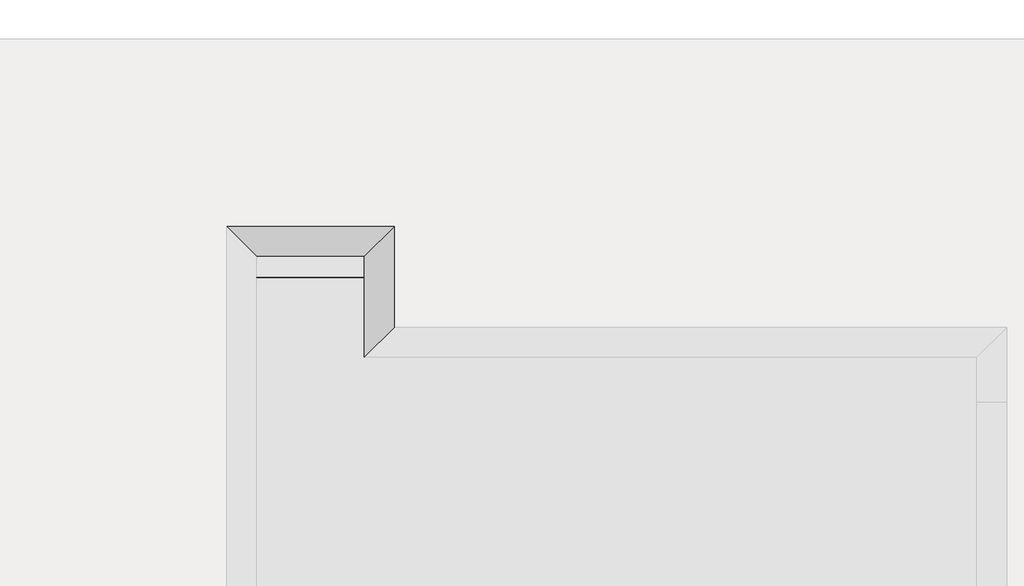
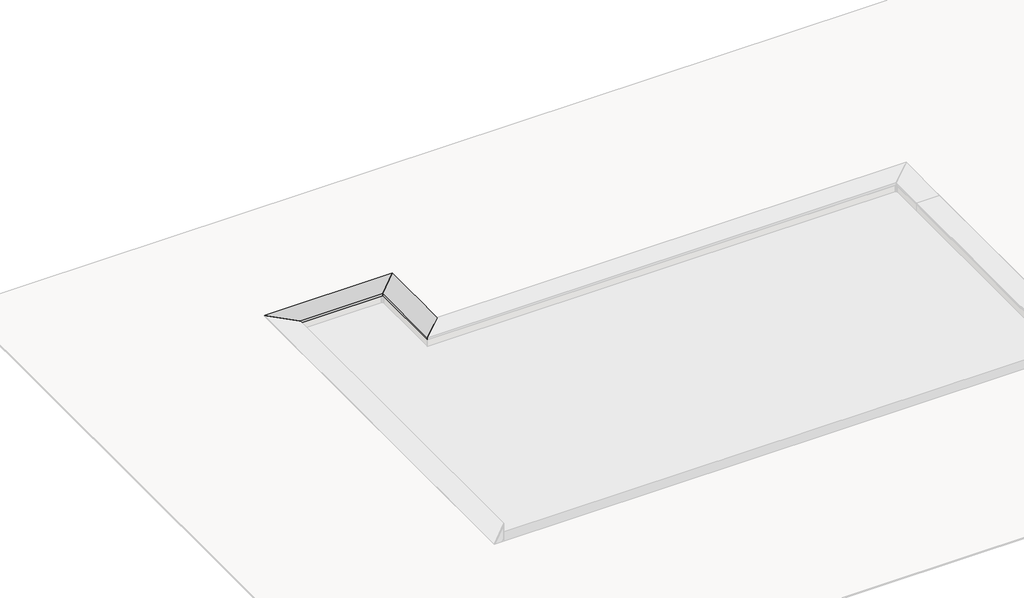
# One storey, part 6 of 8: 8 proxies.
"""IFC4 building model written with IfcOpenShell, lengths in millimetres."""

from ifc_helpers import new_model, si_unit, frame, origin, place, context, project, spatial, polyline, circle_curve, faceted_brep, transform, mapped, element, save
from ifc_brep_helpers import plane_surface, cylinder_surface, revolved_surface, advanced_brep
from components import generic_models_3936827f

model = new_model("IFC4")

# Units and contexts
model_context = context("Model", 3, world=origin())
ifc_project = project(units=[si_unit("LENGTHUNIT", "METRE", prefix="MILLI")], contexts=[model_context])

# Site, building, storey
site = spatial("IfcSite", under=ifc_project)
building = spatial("IfcBuilding", under=site)
storey = spatial("IfcBuildingStorey", under=building, Name="EXAGRES_Serie YOHO_Piscinas_ejemplo", Elevation=0.0)

# Proxies
placement = place(None, origin())
element("IfcBuildingElementProxy", 1, Name="Wall Sweeps", at=placement, inside=storey, context=model_context, shape_type="Brep", body=[
    faceted_brep([(13093.1504813, -22393.1586753, 0.0), (13093.1504813, -22393.1586753, 8.0), (13092.1504813, -22394.1586753, 8.0), (13092.1504813, -22394.1586753, 14.0), (13093.1504813, -22393.1586753, 14.0), (13093.1504813, -22393.1586753, 21.0), (13100.1504813, -22386.1586753, 21.0), (13100.1504813, -22386.1586753, 22.0), (13104.1504813, -22382.1586753, 22.0), (13104.1504813, -22382.1586753, 21.0), (13110.1504813, -22376.1586753, 21.0), (13110.1504813, -22376.1586753, 22.0), (13114.1504813, -22372.1586753, 22.0), (13114.1504813, -22372.1586753, 21.0), (13120.1504813, -22366.1586753, 21.0), (13120.1504813, -22366.1586753, 22.0), (13124.1504813, -22362.1586753, 22.0), (13124.1504813, -22362.1586753, 21.0), (13130.1504813, -22356.1586753, 21.0), (13130.1504813, -22356.1586753, 22.0), (13134.1504813, -22352.1586753, 22.0), (13134.1504813, -22352.1586753, 21.0), (13140.1504813, -22346.1586753, 21.0), (13140.1504813, -22346.1586753, 22.0), (13144.1504813, -22342.1586753, 22.0), (13144.1504813, -22342.1586753, 21.0), (13150.1504813, -22336.1586753, 21.0), (13150.1504813, -22336.1586753, 22.0), (13154.1504813, -22332.1586753, 22.0), (13154.1504813, -22332.1586753, 21.0), (13160.1504813, -22326.1586753, 21.0), (13160.1504813, -22326.1586753, 22.0), (13164.1504813, -22322.1586753, 22.0), (13164.1504813, -22322.1586753, 21.0), (13170.1504813, -22316.1586753, 21.0), (13170.1504813, -22316.1586753, 22.0), (13174.1504813, -22312.1586753, 22.0), (13174.1504813, -22312.1586753, 21.0), (13180.1504813, -22306.1586753, 21.0), (13180.1504813, -22306.1586753, 22.0), (13184.1504813, -22302.1586753, 22.0), (13184.1504813, -22302.1586753, 21.0), (13190.1504813, -22296.1586753, 21.0), (13190.1504813, -22296.1586753, 22.0), (13194.1504813, -22292.1586753, 22.0), (13194.1504813, -22292.1586753, 21.0), (13200.1504813, -22286.1586753, 21.0), (13200.1504813, -22286.1586753, 22.0), (13204.1504813, -22282.1586753, 22.0), (13204.1504813, -22282.1586753, 21.0), (13210.1504813, -22276.1586753, 21.0), (13210.1504813, -22276.1586753, 22.0), (13214.1504813, -22272.1586753, 22.0), (13214.1504813, -22272.1586753, 21.0), (13220.1504813, -22266.1586753, 21.0), (13220.1504813, -22266.1586753, 22.0), (13224.1504813, -22262.1586753, 22.0), (13224.1504813, -22262.1586753, 21.0), (13230.1504813, -22256.1586753, 21.0), (13230.1504813, -22256.1586753, 22.0), (13234.1504813, -22252.1586753, 22.0), (13234.1504813, -22252.1586753, 21.0), (13240.1504813, -22246.1586753, 21.0), (13240.1504813, -22246.1586753, 22.0), (13244.1504813, -22242.1586753, 22.0), (13244.1504813, -22242.1586753, 21.0), (13250.1504813, -22236.1586753, 21.0), (13250.1504813, -22236.1586753, 22.0), (13254.1504813, -22232.1586753, 22.0), (13254.1504813, -22232.1586753, 21.0), (13260.1504813, -22226.1586753, 21.0), (13260.1504813, -22226.1586753, 22.0), (13264.1504813, -22222.1586753, 22.0), (13264.1504813, -22222.1586753, 21.0), (13270.1504813, -22216.1586753, 21.0), (13270.1504813, -22216.1586753, 22.0), (13274.1504813, -22212.1586753, 22.0), (13274.1504813, -22212.1586753, 21.0), (13280.1504813, -22206.1586753, 21.0), (13280.1504813, -22206.1586753, 22.0), (13284.1504813, -22202.1586753, 22.0), (13284.1504813, -22202.1586753, 21.0), (13290.1504813, -22196.1586753, 21.0), (13290.1504813, -22196.1586753, 22.0), (13294.1504813, -22192.1586753, 22.0), (13294.1504813, -22192.1586753, 21.0), (13300.1504813, -22186.1586753, 21.0), (13300.1504813, -22186.1586753, 22.0), (13304.1504813, -22182.1586753, 22.0), (13304.1504813, -22182.1586753, 21.0), (13310.1504813, -22176.1586753, 21.0), (13310.1504813, -22176.1586753, 22.0), (13314.1504813, -22172.1586753, 22.0), (13314.1504813, -22172.1586753, 21.0), (13320.1504813, -22166.1586753, 21.0), (13320.1504813, -22166.1586753, 22.0), (13324.1504813, -22162.1586753, 22.0), (13324.1504813, -22162.1586753, 21.0), (13330.1504813, -22156.1586753, 21.0), (13330.1504813, -22156.1586753, 22.0), (13334.1504813, -22152.1586753, 22.0), (13334.1504813, -22152.1586753, 21.0), (13340.1504813, -22146.1586753, 21.0), (13340.1504813, -22146.1586753, 22.0), (13344.1504813, -22142.1586753, 22.0), (13344.1504813, -22142.1586753, 21.0), (13350.1504813, -22136.1586753, 21.0), (13350.1504813, -22136.1586753, 22.0), (13354.1504813, -22132.1586753, 22.0), (13354.1504813, -22132.1586753, 21.0), (13360.1504813, -22126.1586753, 21.0), (13360.1504813, -22126.1586753, 22.0), (13364.1504813, -22122.1586753, 22.0), (13364.1504813, -22122.1586753, 21.0), (13370.1504813, -22116.1586753, 21.0), (13370.1504813, -22116.1586753, 22.0), (13374.1504813, -22112.1586753, 22.0), (13374.1504813, -22112.1586753, 21.0), (13380.1504813, -22106.1586753, 21.0), (13380.1504813, -22106.1586753, 22.0), (13384.1504813, -22102.1586753, 22.0), (13384.1504813, -22102.1586753, 21.0), (13390.1504813, -22096.1586753, 21.0), (13390.1504813, -22096.1586753, 22.0), (13394.1504813, -22092.1586753, 22.0), (13394.1504813, -22092.1586753, 21.0), (13400.1504813, -22086.1586753, 21.0), (13400.1504813, -22086.1586753, 22.0), (13404.1504813, -22082.1586753, 22.0), (13404.1504813, -22082.1586753, 21.0), (13410.1504813, -22076.1586753, 21.0), (13410.1504813, -22076.1586753, 33.0), (13080.1504813, -22406.1586753, 33.0), (13080.1504813, -22406.1586753, 0.0), (13093.1504813, -21273.1586753, 0.0), (13080.1504813, -21286.1586753, 0.0), (13080.1504813, -21286.1586753, 33.0), (13410.1504813, -20956.1586753, 33.0), (13410.1504813, -20956.1586753, 21.0), (13404.1504813, -20962.1586753, 21.0), (13404.1504813, -20962.1586753, 22.0), (13400.1504813, -20966.1586753, 22.0), (13400.1504813, -20966.1586753, 21.0), (13394.1504813, -20972.1586753, 21.0), (13394.1504813, -20972.1586753, 22.0), (13390.1504813, -20976.1586753, 22.0), (13390.1504813, -20976.1586753, 21.0), (13384.1504813, -20982.1586753, 21.0), (13384.1504813, -20982.1586753, 22.0), (13380.1504813, -20986.1586753, 22.0), (13380.1504813, -20986.1586753, 21.0), (13374.1504813, -20992.1586753, 21.0), (13374.1504813, -20992.1586753, 22.0), (13370.1504813, -20996.1586753, 22.0), (13370.1504813, -20996.1586753, 21.0), (13364.1504813, -21002.1586753, 21.0), (13364.1504813, -21002.1586753, 22.0), (13360.1504813, -21006.1586753, 22.0), (13360.1504813, -21006.1586753, 21.0), (13354.1504813, -21012.1586753, 21.0), (13354.1504813, -21012.1586753, 22.0), (13350.1504813, -21016.1586753, 22.0), (13350.1504813, -21016.1586753, 21.0), (13344.1504813, -21022.1586753, 21.0), (13344.1504813, -21022.1586753, 22.0), (13340.1504813, -21026.1586753, 22.0), (13340.1504813, -21026.1586753, 21.0), (13334.1504813, -21032.1586753, 21.0), (13334.1504813, -21032.1586753, 22.0), (13330.1504813, -21036.1586753, 22.0), (13330.1504813, -21036.1586753, 21.0), (13324.1504813, -21042.1586753, 21.0), (13324.1504813, -21042.1586753, 22.0), (13320.1504813, -21046.1586753, 22.0), (13320.1504813, -21046.1586753, 21.0), (13314.1504813, -21052.1586753, 21.0), (13314.1504813, -21052.1586753, 22.0), (13310.1504813, -21056.1586753, 22.0), (13310.1504813, -21056.1586753, 21.0), (13304.1504813, -21062.1586753, 21.0), (13304.1504813, -21062.1586753, 22.0), (13300.1504813, -21066.1586753, 22.0), (13300.1504813, -21066.1586753, 21.0), (13294.1504813, -21072.1586753, 21.0), (13294.1504813, -21072.1586753, 22.0), (13290.1504813, -21076.1586753, 22.0), (13290.1504813, -21076.1586753, 21.0), (13284.1504813, -21082.1586753, 21.0), (13284.1504813, -21082.1586753, 22.0), (13280.1504813, -21086.1586753, 22.0), (13280.1504813, -21086.1586753, 21.0), (13274.1504813, -21092.1586753, 21.0), (13274.1504813, -21092.1586753, 22.0), (13270.1504813, -21096.1586753, 22.0), (13270.1504813, -21096.1586753, 21.0), (13264.1504813, -21102.1586753, 21.0), (13264.1504813, -21102.1586753, 22.0), (13260.1504813, -21106.1586753, 22.0), (13260.1504813, -21106.1586753, 21.0), (13254.1504813, -21112.1586753, 21.0), (13254.1504813, -21112.1586753, 22.0), (13250.1504813, -21116.1586753, 22.0), (13250.1504813, -21116.1586753, 21.0), (13244.1504813, -21122.1586753, 21.0), (13244.1504813, -21122.1586753, 22.0), (13240.1504813, -21126.1586753, 22.0), (13240.1504813, -21126.1586753, 21.0), (13234.1504813, -21132.1586753, 21.0), (13234.1504813, -21132.1586753, 22.0), (13230.1504813, -21136.1586753, 22.0), (13230.1504813, -21136.1586753, 21.0), (13224.1504813, -21142.1586753, 21.0), (13224.1504813, -21142.1586753, 22.0), (13220.1504813, -21146.1586753, 22.0), (13220.1504813, -21146.1586753, 21.0), (13214.1504813, -21152.1586753, 21.0), (13214.1504813, -21152.1586753, 22.0), (13210.1504813, -21156.1586753, 22.0), (13210.1504813, -21156.1586753, 21.0), (13204.1504813, -21162.1586753, 21.0), (13204.1504813, -21162.1586753, 22.0), (13200.1504813, -21166.1586753, 22.0), (13200.1504813, -21166.1586753, 21.0), (13194.1504813, -21172.1586753, 21.0), (13194.1504813, -21172.1586753, 22.0), (13190.1504813, -21176.1586753, 22.0), (13190.1504813, -21176.1586753, 21.0), (13184.1504813, -21182.1586753, 21.0), (13184.1504813, -21182.1586753, 22.0), (13180.1504813, -21186.1586753, 22.0), (13180.1504813, -21186.1586753, 21.0), (13174.1504813, -21192.1586753, 21.0), (13174.1504813, -21192.1586753, 22.0), (13170.1504813, -21196.1586753, 22.0), (13170.1504813, -21196.1586753, 21.0), (13164.1504813, -21202.1586753, 21.0), (13164.1504813, -21202.1586753, 22.0), (13160.1504813, -21206.1586753, 22.0), (13160.1504813, -21206.1586753, 21.0), (13154.1504813, -21212.1586753, 21.0), (13154.1504813, -21212.1586753, 22.0), (13150.1504813, -21216.1586753, 22.0), (13150.1504813, -21216.1586753, 21.0), (13144.1504813, -21222.1586753, 21.0), (13144.1504813, -21222.1586753, 22.0), (13140.1504813, -21226.1586753, 22.0), (13140.1504813, -21226.1586753, 21.0), (13134.1504813, -21232.1586753, 21.0), (13134.1504813, -21232.1586753, 22.0), (13130.1504813, -21236.1586753, 22.0), (13130.1504813, -21236.1586753, 21.0), (13124.1504813, -21242.1586753, 21.0), (13124.1504813, -21242.1586753, 22.0), (13120.1504813, -21246.1586753, 22.0), (13120.1504813, -21246.1586753, 21.0), (13114.1504813, -21252.1586753, 21.0), (13114.1504813, -21252.1586753, 22.0), (13110.1504813, -21256.1586753, 22.0), (13110.1504813, -21256.1586753, 21.0), (13104.1504813, -21262.1586753, 21.0), (13104.1504813, -21262.1586753, 22.0), (13100.1504813, -21266.1586753, 22.0), (13100.1504813, -21266.1586753, 21.0), (13093.1504813, -21273.1586753, 21.0), (13093.1504813, -21273.1586753, 14.0), (13092.1504813, -21274.1586753, 14.0), (13092.1504813, -21274.1586753, 8.0), (13093.1504813, -21273.1586753, 8.0)], [[[0, 1, 2, 3, 4, 5, 6, 7, 8, 9, 10, 11, 12, 13, 14, 15, 16, 17, 18, 19, 20, 21, 22, 23, 24, 25, 26, 27, 28, 29, 30, 31, 32, 33, 34, 35, 36, 37, 38, 39, 40, 41, 42, 43, 44, 45, 46, 47, 48, 49, 50, 51, 52, 53, 54, 55, 56, 57, 58, 59, 60, 61, 62, 63, 64, 65, 66, 67, 68, 69, 70, 71, 72, 73, 74, 75, 76, 77, 78, 79, 80, 81, 82, 83, 84, 85, 86, 87, 88, 89, 90, 91, 92, 93, 94, 95, 96, 97, 98, 99, 100, 101, 102, 103, 104, 105, 106, 107, 108, 109, 110, 111, 112, 113, 114, 115, 116, 117, 118, 119, 120, 121, 122, 123, 124, 125, 126, 127, 128, 129, 130, 131, 132, 133]], [[134, 135, 136, 137, 138, 139, 140, 141, 142, 143, 144, 145, 146, 147, 148, 149, 150, 151, 152, 153, 154, 155, 156, 157, 158, 159, 160, 161, 162, 163, 164, 165, 166, 167, 168, 169, 170, 171, 172, 173, 174, 175, 176, 177, 178, 179, 180, 181, 182, 183, 184, 185, 186, 187, 188, 189, 190, 191, 192, 193, 194, 195, 196, 197, 198, 199, 200, 201, 202, 203, 204, 205, 206, 207, 208, 209, 210, 211, 212, 213, 214, 215, 216, 217, 218, 219, 220, 221, 222, 223, 224, 225, 226, 227, 228, 229, 230, 231, 232, 233, 234, 235, 236, 237, 238, 239, 240, 241, 242, 243, 244, 245, 246, 247, 248, 249, 250, 251, 252, 253, 254, 255, 256, 257, 258, 259, 260, 261, 262, 263, 264, 265, 266, 267]], [[1, 0, 134, 267]], [[2, 1, 267, 266]], [[3, 2, 266, 265]], [[4, 3, 265, 264]], [[5, 4, 264, 263]], [[6, 5, 263, 262]], [[7, 6, 262, 261]], [[8, 7, 261, 260]], [[9, 8, 260, 259]], [[10, 9, 259, 258]], [[11, 10, 258, 257]], [[12, 11, 257, 256]], [[13, 12, 256, 255]], [[14, 13, 255, 254]], [[15, 14, 254, 253]], [[16, 15, 253, 252]], [[17, 16, 252, 251]], [[18, 17, 251, 250]], [[19, 18, 250, 249]], [[20, 19, 249, 248]], [[21, 20, 248, 247]], [[22, 21, 247, 246]], [[23, 22, 246, 245]], [[24, 23, 245, 244]], [[25, 24, 244, 243]], [[26, 25, 243, 242]], [[27, 26, 242, 241]], [[28, 27, 241, 240]], [[29, 28, 240, 239]], [[30, 29, 239, 238]], [[31, 30, 238, 237]], [[32, 31, 237, 236]], [[33, 32, 236, 235]], [[34, 33, 235, 234]], [[35, 34, 234, 233]], [[36, 35, 233, 232]], [[37, 36, 232, 231]], [[38, 37, 231, 230]], [[39, 38, 230, 229]], [[40, 39, 229, 228]], [[41, 40, 228, 227]], [[42, 41, 227, 226]], [[43, 42, 226, 225]], [[44, 43, 225, 224]], [[45, 44, 224, 223]], [[46, 45, 223, 222]], [[47, 46, 222, 221]], [[48, 47, 221, 220]], [[49, 48, 220, 219]], [[50, 49, 219, 218]], [[51, 50, 218, 217]], [[52, 51, 217, 216]], [[53, 52, 216, 215]], [[54, 53, 215, 214]], [[55, 54, 214, 213]], [[56, 55, 213, 212]], [[57, 56, 212, 211]], [[58, 57, 211, 210]], [[59, 58, 210, 209]], [[60, 59, 209, 208]], [[61, 60, 208, 207]], [[62, 61, 207, 206]], [[63, 62, 206, 205]], [[64, 63, 205, 204]], [[65, 64, 204, 203]], [[66, 65, 203, 202]], [[67, 66, 202, 201]], [[68, 67, 201, 200]], [[69, 68, 200, 199]], [[70, 69, 199, 198]], [[71, 70, 198, 197]], [[72, 71, 197, 196]], [[73, 72, 196, 195]], [[74, 73, 195, 194]], [[75, 74, 194, 193]], [[76, 75, 193, 192]], [[77, 76, 192, 191]], [[78, 77, 191, 190]], [[79, 78, 190, 189]], [[80, 79, 189, 188]], [[81, 80, 188, 187]], [[82, 81, 187, 186]], [[83, 82, 186, 185]], [[84, 83, 185, 184]], [[85, 84, 184, 183]], [[86, 85, 183, 182]], [[87, 86, 182, 181]], [[88, 87, 181, 180]], [[89, 88, 180, 179]], [[90, 89, 179, 178]], [[91, 90, 178, 177]], [[92, 91, 177, 176]], [[93, 92, 176, 175]], [[94, 93, 175, 174]], [[95, 94, 174, 173]], [[96, 95, 173, 172]], [[97, 96, 172, 171]], [[98, 97, 171, 170]], [[99, 98, 170, 169]], [[100, 99, 169, 168]], [[101, 100, 168, 167]], [[102, 101, 167, 166]], [[103, 102, 166, 165]], [[104, 103, 165, 164]], [[105, 104, 164, 163]], [[106, 105, 163, 162]], [[107, 106, 162, 161]], [[108, 107, 161, 160]], [[109, 108, 160, 159]], [[110, 109, 159, 158]], [[111, 110, 158, 157]], [[112, 111, 157, 156]], [[113, 112, 156, 155]], [[114, 113, 155, 154]], [[115, 114, 154, 153]], [[116, 115, 153, 152]], [[117, 116, 152, 151]], [[118, 117, 151, 150]], [[119, 118, 150, 149]], [[120, 119, 149, 148]], [[121, 120, 148, 147]], [[122, 121, 147, 146]], [[123, 122, 146, 145]], [[124, 123, 145, 144]], [[125, 124, 144, 143]], [[126, 125, 143, 142]], [[127, 126, 142, 141]], [[128, 127, 141, 140]], [[129, 128, 140, 139]], [[130, 129, 139, 138]], [[131, 130, 138, 137]], [[132, 131, 137, 136]], [[133, 132, 136, 135]], [[0, 133, 135, 134]]]),
])
element("IfcBuildingElementProxy", 2, Name="Wall Sweeps", at=placement, inside=storey, context=model_context, shape_type="Brep", body=[
    faceted_brep([(11867.1504813, -21273.1586753, 0.0), (11880.1504813, -21286.1586753, 0.0), (11880.1504813, -21286.1586753, 33.0), (11550.1504813, -20956.1586753, 33.0), (11550.1504813, -20956.1586753, 21.0), (11556.1504813, -20962.1586753, 21.0), (11556.1504813, -20962.1586753, 22.0), (11560.1504813, -20966.1586753, 22.0), (11560.1504813, -20966.1586753, 21.0), (11566.1504813, -20972.1586753, 21.0), (11566.1504813, -20972.1586753, 22.0), (11570.1504813, -20976.1586753, 22.0), (11570.1504813, -20976.1586753, 21.0), (11576.1504813, -20982.1586753, 21.0), (11576.1504813, -20982.1586753, 22.0), (11580.1504813, -20986.1586753, 22.0), (11580.1504813, -20986.1586753, 21.0), (11586.1504813, -20992.1586753, 21.0), (11586.1504813, -20992.1586753, 22.0), (11590.1504813, -20996.1586753, 22.0), (11590.1504813, -20996.1586753, 21.0), (11596.1504813, -21002.1586753, 21.0), (11596.1504813, -21002.1586753, 22.0), (11600.1504813, -21006.1586753, 22.0), (11600.1504813, -21006.1586753, 21.0), (11606.1504813, -21012.1586753, 21.0), (11606.1504813, -21012.1586753, 22.0), (11610.1504813, -21016.1586753, 22.0), (11610.1504813, -21016.1586753, 21.0), (11616.1504813, -21022.1586753, 21.0), (11616.1504813, -21022.1586753, 22.0), (11620.1504813, -21026.1586753, 22.0), (11620.1504813, -21026.1586753, 21.0), (11626.1504813, -21032.1586753, 21.0), (11626.1504813, -21032.1586753, 22.0), (11630.1504813, -21036.1586753, 22.0), (11630.1504813, -21036.1586753, 21.0), (11636.1504813, -21042.1586753, 21.0), (11636.1504813, -21042.1586753, 22.0), (11640.1504813, -21046.1586753, 22.0), (11640.1504813, -21046.1586753, 21.0), (11646.1504813, -21052.1586753, 21.0), (11646.1504813, -21052.1586753, 22.0), (11650.1504813, -21056.1586753, 22.0), (11650.1504813, -21056.1586753, 21.0), (11656.1504813, -21062.1586753, 21.0), (11656.1504813, -21062.1586753, 22.0), (11660.1504813, -21066.1586753, 22.0), (11660.1504813, -21066.1586753, 21.0), (11666.1504813, -21072.1586753, 21.0), (11666.1504813, -21072.1586753, 22.0), (11670.1504813, -21076.1586753, 22.0), (11670.1504813, -21076.1586753, 21.0), (11676.1504813, -21082.1586753, 21.0), (11676.1504813, -21082.1586753, 22.0), (11680.1504813, -21086.1586753, 22.0), (11680.1504813, -21086.1586753, 21.0), (11686.1504813, -21092.1586753, 21.0), (11686.1504813, -21092.1586753, 22.0), (11690.1504813, -21096.1586753, 22.0), (11690.1504813, -21096.1586753, 21.0), (11696.1504813, -21102.1586753, 21.0), (11696.1504813, -21102.1586753, 22.0), (11700.1504813, -21106.1586753, 22.0), (11700.1504813, -21106.1586753, 21.0), (11706.1504813, -21112.1586753, 21.0), (11706.1504813, -21112.1586753, 22.0), (11710.1504813, -21116.1586753, 22.0), (11710.1504813, -21116.1586753, 21.0), (11716.1504813, -21122.1586753, 21.0), (11716.1504813, -21122.1586753, 22.0), (11720.1504813, -21126.1586753, 22.0), (11720.1504813, -21126.1586753, 21.0), (11726.1504813, -21132.1586753, 21.0), (11726.1504813, -21132.1586753, 22.0), (11730.1504813, -21136.1586753, 22.0), (11730.1504813, -21136.1586753, 21.0), (11736.1504813, -21142.1586753, 21.0), (11736.1504813, -21142.1586753, 22.0), (11740.1504813, -21146.1586753, 22.0), (11740.1504813, -21146.1586753, 21.0), (11746.1504813, -21152.1586753, 21.0), (11746.1504813, -21152.1586753, 22.0), (11750.1504813, -21156.1586753, 22.0), (11750.1504813, -21156.1586753, 21.0), (11756.1504813, -21162.1586753, 21.0), (11756.1504813, -21162.1586753, 22.0), (11760.1504813, -21166.1586753, 22.0), (11760.1504813, -21166.1586753, 21.0), (11766.1504813, -21172.1586753, 21.0), (11766.1504813, -21172.1586753, 22.0), (11770.1504813, -21176.1586753, 22.0), (11770.1504813, -21176.1586753, 21.0), (11776.1504813, -21182.1586753, 21.0), (11776.1504813, -21182.1586753, 22.0), (11780.1504813, -21186.1586753, 22.0), (11780.1504813, -21186.1586753, 21.0), (11786.1504813, -21192.1586753, 21.0), (11786.1504813, -21192.1586753, 22.0), (11790.1504813, -21196.1586753, 22.0), (11790.1504813, -21196.1586753, 21.0), (11796.1504813, -21202.1586753, 21.0), (11796.1504813, -21202.1586753, 22.0), (11800.1504813, -21206.1586753, 22.0), (11800.1504813, -21206.1586753, 21.0), (11806.1504813, -21212.1586753, 21.0), (11806.1504813, -21212.1586753, 22.0), (11810.1504813, -21216.1586753, 22.0), (11810.1504813, -21216.1586753, 21.0), (11816.1504813, -21222.1586753, 21.0), (11816.1504813, -21222.1586753, 22.0), (11820.1504813, -21226.1586753, 22.0), (11820.1504813, -21226.1586753, 21.0), (11826.1504813, -21232.1586753, 21.0), (11826.1504813, -21232.1586753, 22.0), (11830.1504813, -21236.1586753, 22.0), (11830.1504813, -21236.1586753, 21.0), (11836.1504813, -21242.1586753, 21.0), (11836.1504813, -21242.1586753, 22.0), (11840.1504813, -21246.1586753, 22.0), (11840.1504813, -21246.1586753, 21.0), (11846.1504813, -21252.1586753, 21.0), (11846.1504813, -21252.1586753, 22.0), (11850.1504813, -21256.1586753, 22.0), (11850.1504813, -21256.1586753, 21.0), (11856.1504813, -21262.1586753, 21.0), (11856.1504813, -21262.1586753, 22.0), (11860.1504813, -21266.1586753, 22.0), (11860.1504813, -21266.1586753, 21.0), (11867.1504813, -21273.1586753, 21.0), (11867.1504813, -21273.1586753, 14.0), (11868.1504813, -21274.1586753, 14.0), (11868.1504813, -21274.1586753, 8.0), (11867.1504813, -21273.1586753, 8.0), (13093.1504813, -21273.1586753, 0.0), (13093.1504813, -21273.1586753, 8.0), (13092.1504813, -21274.1586753, 8.0), (13092.1504813, -21274.1586753, 14.0), (13093.1504813, -21273.1586753, 14.0), (13093.1504813, -21273.1586753, 21.0), (13100.1504813, -21266.1586753, 21.0), (13100.1504813, -21266.1586753, 22.0), (13104.1504813, -21262.1586753, 22.0), (13104.1504813, -21262.1586753, 21.0), (13110.1504813, -21256.1586753, 21.0), (13110.1504813, -21256.1586753, 22.0), (13114.1504813, -21252.1586753, 22.0), (13114.1504813, -21252.1586753, 21.0), (13120.1504813, -21246.1586753, 21.0), (13120.1504813, -21246.1586753, 22.0), (13124.1504813, -21242.1586753, 22.0), (13124.1504813, -21242.1586753, 21.0), (13130.1504813, -21236.1586753, 21.0), (13130.1504813, -21236.1586753, 22.0), (13134.1504813, -21232.1586753, 22.0), (13134.1504813, -21232.1586753, 21.0), (13140.1504813, -21226.1586753, 21.0), (13140.1504813, -21226.1586753, 22.0), (13144.1504813, -21222.1586753, 22.0), (13144.1504813, -21222.1586753, 21.0), (13150.1504813, -21216.1586753, 21.0), (13150.1504813, -21216.1586753, 22.0), (13154.1504813, -21212.1586753, 22.0), (13154.1504813, -21212.1586753, 21.0), (13160.1504813, -21206.1586753, 21.0), (13160.1504813, -21206.1586753, 22.0), (13164.1504813, -21202.1586753, 22.0), (13164.1504813, -21202.1586753, 21.0), (13170.1504813, -21196.1586753, 21.0), (13170.1504813, -21196.1586753, 22.0), (13174.1504813, -21192.1586753, 22.0), (13174.1504813, -21192.1586753, 21.0), (13180.1504813, -21186.1586753, 21.0), (13180.1504813, -21186.1586753, 22.0), (13184.1504813, -21182.1586753, 22.0), (13184.1504813, -21182.1586753, 21.0), (13190.1504813, -21176.1586753, 21.0), (13190.1504813, -21176.1586753, 22.0), (13194.1504813, -21172.1586753, 22.0), (13194.1504813, -21172.1586753, 21.0), (13200.1504813, -21166.1586753, 21.0), (13200.1504813, -21166.1586753, 22.0), (13204.1504813, -21162.1586753, 22.0), (13204.1504813, -21162.1586753, 21.0), (13210.1504813, -21156.1586753, 21.0), (13210.1504813, -21156.1586753, 22.0), (13214.1504813, -21152.1586753, 22.0), (13214.1504813, -21152.1586753, 21.0), (13220.1504813, -21146.1586753, 21.0), (13220.1504813, -21146.1586753, 22.0), (13224.1504813, -21142.1586753, 22.0), (13224.1504813, -21142.1586753, 21.0), (13230.1504813, -21136.1586753, 21.0), (13230.1504813, -21136.1586753, 22.0), (13234.1504813, -21132.1586753, 22.0), (13234.1504813, -21132.1586753, 21.0), (13240.1504813, -21126.1586753, 21.0), (13240.1504813, -21126.1586753, 22.0), (13244.1504813, -21122.1586753, 22.0), (13244.1504813, -21122.1586753, 21.0), (13250.1504813, -21116.1586753, 21.0), (13250.1504813, -21116.1586753, 22.0), (13254.1504813, -21112.1586753, 22.0), (13254.1504813, -21112.1586753, 21.0), (13260.1504813, -21106.1586753, 21.0), (13260.1504813, -21106.1586753, 22.0), (13264.1504813, -21102.1586753, 22.0), (13264.1504813, -21102.1586753, 21.0), (13270.1504813, -21096.1586753, 21.0), (13270.1504813, -21096.1586753, 22.0), (13274.1504813, -21092.1586753, 22.0), (13274.1504813, -21092.1586753, 21.0), (13280.1504813, -21086.1586753, 21.0), (13280.1504813, -21086.1586753, 22.0), (13284.1504813, -21082.1586753, 22.0), (13284.1504813, -21082.1586753, 21.0), (13290.1504813, -21076.1586753, 21.0), (13290.1504813, -21076.1586753, 22.0), (13294.1504813, -21072.1586753, 22.0), (13294.1504813, -21072.1586753, 21.0), (13300.1504813, -21066.1586753, 21.0), (13300.1504813, -21066.1586753, 22.0), (13304.1504813, -21062.1586753, 22.0), (13304.1504813, -21062.1586753, 21.0), (13310.1504813, -21056.1586753, 21.0), (13310.1504813, -21056.1586753, 22.0), (13314.1504813, -21052.1586753, 22.0), (13314.1504813, -21052.1586753, 21.0), (13320.1504813, -21046.1586753, 21.0), (13320.1504813, -21046.1586753, 22.0), (13324.1504813, -21042.1586753, 22.0), (13324.1504813, -21042.1586753, 21.0), (13330.1504813, -21036.1586753, 21.0), (13330.1504813, -21036.1586753, 22.0), (13334.1504813, -21032.1586753, 22.0), (13334.1504813, -21032.1586753, 21.0), (13340.1504813, -21026.1586753, 21.0), (13340.1504813, -21026.1586753, 22.0), (13344.1504813, -21022.1586753, 22.0), (13344.1504813, -21022.1586753, 21.0), (13350.1504813, -21016.1586753, 21.0), (13350.1504813, -21016.1586753, 22.0), (13354.1504813, -21012.1586753, 22.0), (13354.1504813, -21012.1586753, 21.0), (13360.1504813, -21006.1586753, 21.0), (13360.1504813, -21006.1586753, 22.0), (13364.1504813, -21002.1586753, 22.0), (13364.1504813, -21002.1586753, 21.0), (13370.1504813, -20996.1586753, 21.0), (13370.1504813, -20996.1586753, 22.0), (13374.1504813, -20992.1586753, 22.0), (13374.1504813, -20992.1586753, 21.0), (13380.1504813, -20986.1586753, 21.0), (13380.1504813, -20986.1586753, 22.0), (13384.1504813, -20982.1586753, 22.0), (13384.1504813, -20982.1586753, 21.0), (13390.1504813, -20976.1586753, 21.0), (13390.1504813, -20976.1586753, 22.0), (13394.1504813, -20972.1586753, 22.0), (13394.1504813, -20972.1586753, 21.0), (13400.1504813, -20966.1586753, 21.0), (13400.1504813, -20966.1586753, 22.0), (13404.1504813, -20962.1586753, 22.0), (13404.1504813, -20962.1586753, 21.0), (13410.1504813, -20956.1586753, 21.0), (13410.1504813, -20956.1586753, 33.0), (13080.1504813, -21286.1586753, 33.0), (13080.1504813, -21286.1586753, 0.0)], [[[0, 1, 2, 3, 4, 5, 6, 7, 8, 9, 10, 11, 12, 13, 14, 15, 16, 17, 18, 19, 20, 21, 22, 23, 24, 25, 26, 27, 28, 29, 30, 31, 32, 33, 34, 35, 36, 37, 38, 39, 40, 41, 42, 43, 44, 45, 46, 47, 48, 49, 50, 51, 52, 53, 54, 55, 56, 57, 58, 59, 60, 61, 62, 63, 64, 65, 66, 67, 68, 69, 70, 71, 72, 73, 74, 75, 76, 77, 78, 79, 80, 81, 82, 83, 84, 85, 86, 87, 88, 89, 90, 91, 92, 93, 94, 95, 96, 97, 98, 99, 100, 101, 102, 103, 104, 105, 106, 107, 108, 109, 110, 111, 112, 113, 114, 115, 116, 117, 118, 119, 120, 121, 122, 123, 124, 125, 126, 127, 128, 129, 130, 131, 132, 133]], [[134, 135, 136, 137, 138, 139, 140, 141, 142, 143, 144, 145, 146, 147, 148, 149, 150, 151, 152, 153, 154, 155, 156, 157, 158, 159, 160, 161, 162, 163, 164, 165, 166, 167, 168, 169, 170, 171, 172, 173, 174, 175, 176, 177, 178, 179, 180, 181, 182, 183, 184, 185, 186, 187, 188, 189, 190, 191, 192, 193, 194, 195, 196, 197, 198, 199, 200, 201, 202, 203, 204, 205, 206, 207, 208, 209, 210, 211, 212, 213, 214, 215, 216, 217, 218, 219, 220, 221, 222, 223, 224, 225, 226, 227, 228, 229, 230, 231, 232, 233, 234, 235, 236, 237, 238, 239, 240, 241, 242, 243, 244, 245, 246, 247, 248, 249, 250, 251, 252, 253, 254, 255, 256, 257, 258, 259, 260, 261, 262, 263, 264, 265, 266, 267]], [[1, 0, 134, 267]], [[2, 1, 267, 266]], [[3, 2, 266, 265]], [[4, 3, 265, 264]], [[5, 4, 264, 263]], [[6, 5, 263, 262]], [[7, 6, 262, 261]], [[8, 7, 261, 260]], [[9, 8, 260, 259]], [[10, 9, 259, 258]], [[11, 10, 258, 257]], [[12, 11, 257, 256]], [[13, 12, 256, 255]], [[14, 13, 255, 254]], [[15, 14, 254, 253]], [[16, 15, 253, 252]], [[17, 16, 252, 251]], [[18, 17, 251, 250]], [[19, 18, 250, 249]], [[20, 19, 249, 248]], [[21, 20, 248, 247]], [[22, 21, 247, 246]], [[23, 22, 246, 245]], [[24, 23, 245, 244]], [[25, 24, 244, 243]], [[26, 25, 243, 242]], [[27, 26, 242, 241]], [[28, 27, 241, 240]], [[29, 28, 240, 239]], [[30, 29, 239, 238]], [[31, 30, 238, 237]], [[32, 31, 237, 236]], [[33, 32, 236, 235]], [[34, 33, 235, 234]], [[35, 34, 234, 233]], [[36, 35, 233, 232]], [[37, 36, 232, 231]], [[38, 37, 231, 230]], [[39, 38, 230, 229]], [[40, 39, 229, 228]], [[41, 40, 228, 227]], [[42, 41, 227, 226]], [[43, 42, 226, 225]], [[44, 43, 225, 224]], [[45, 44, 224, 223]], [[46, 45, 223, 222]], [[47, 46, 222, 221]], [[48, 47, 221, 220]], [[49, 48, 220, 219]], [[50, 49, 219, 218]], [[51, 50, 218, 217]], [[52, 51, 217, 216]], [[53, 52, 216, 215]], [[54, 53, 215, 214]], [[55, 54, 214, 213]], [[56, 55, 213, 212]], [[57, 56, 212, 211]], [[58, 57, 211, 210]], [[59, 58, 210, 209]], [[60, 59, 209, 208]], [[61, 60, 208, 207]], [[62, 61, 207, 206]], [[63, 62, 206, 205]], [[64, 63, 205, 204]], [[65, 64, 204, 203]], [[66, 65, 203, 202]], [[67, 66, 202, 201]], [[68, 67, 201, 200]], [[69, 68, 200, 199]], [[70, 69, 199, 198]], [[71, 70, 198, 197]], [[72, 71, 197, 196]], [[73, 72, 196, 195]], [[74, 73, 195, 194]], [[75, 74, 194, 193]], [[76, 75, 193, 192]], [[77, 76, 192, 191]], [[78, 77, 191, 190]], [[79, 78, 190, 189]], [[80, 79, 189, 188]], [[81, 80, 188, 187]], [[82, 81, 187, 186]], [[83, 82, 186, 185]], [[84, 83, 185, 184]], [[85, 84, 184, 183]], [[86, 85, 183, 182]], [[87, 86, 182, 181]], [[88, 87, 181, 180]], [[89, 88, 180, 179]], [[90, 89, 179, 178]], [[91, 90, 178, 177]], [[92, 91, 177, 176]], [[93, 92, 176, 175]], [[94, 93, 175, 174]], [[95, 94, 174, 173]], [[96, 95, 173, 172]], [[97, 96, 172, 171]], [[98, 97, 171, 170]], [[99, 98, 170, 169]], [[100, 99, 169, 168]], [[101, 100, 168, 167]], [[102, 101, 167, 166]], [[103, 102, 166, 165]], [[104, 103, 165, 164]], [[105, 104, 164, 163]], [[106, 105, 163, 162]], [[107, 106, 162, 161]], [[108, 107, 161, 160]], [[109, 108, 160, 159]], [[110, 109, 159, 158]], [[111, 110, 158, 157]], [[112, 111, 157, 156]], [[113, 112, 156, 155]], [[114, 113, 155, 154]], [[115, 114, 154, 153]], [[116, 115, 153, 152]], [[117, 116, 152, 151]], [[118, 117, 151, 150]], [[119, 118, 150, 149]], [[120, 119, 149, 148]], [[121, 120, 148, 147]], [[122, 121, 147, 146]], [[123, 122, 146, 145]], [[124, 123, 145, 144]], [[125, 124, 144, 143]], [[126, 125, 143, 142]], [[127, 126, 142, 141]], [[128, 127, 141, 140]], [[129, 128, 140, 139]], [[130, 129, 139, 138]], [[131, 130, 138, 137]], [[132, 131, 137, 136]], [[133, 132, 136, 135]], [[0, 133, 135, 134]]]),
])
element("IfcBuildingElementProxy", 3, Name="Wall Sweeps", at=placement, inside=storey, context=model_context, shape_type="Brep", body=[
    faceted_brep([(11560.1504813, -20966.1586753, -181.26), (11655.1504813, -21061.1586753, -181.26), (11865.1504813, -21271.1586753, -181.26), (11865.1504813, -21271.1586753, -109.0), (11855.1504813, -21261.1586753, -109.0), (11855.1504813, -21261.1586753, -100.0), (11865.1504813, -21271.1586753, -100.0), (11865.1504813, -21271.1586753, 0.0), (11865.1504813, -21271.1586753, 18.74), (11560.1504813, -20966.1586753, 18.74), (13095.1504813, -21271.1586753, -181.26), (13305.1504813, -21061.1586753, -181.26), (13400.1504813, -20966.1586753, -181.26), (13400.1504813, -20966.1586753, 18.74), (13095.1504813, -21271.1586753, 18.74), (13095.1504813, -21271.1586753, 0.0), (13095.1504813, -21271.1586753, -100.0), (13105.1504813, -21261.1586753, -100.0), (13105.1504813, -21261.1586753, -109.0), (13095.1504813, -21271.1586753, -109.0), (13105.1504813, -21226.1586753, -109.0), (11855.1504813, -21226.1586753, -109.0), (11855.1504813, -21226.1586753, -100.0), (13105.1504813, -21226.1586753, -100.0)], [[[0, 1, 2, 3, 4, 5, 6, 7, 8, 9]], [[10, 11, 12, 13, 14, 15, 16, 17, 18, 19]], [[2, 10, 19, 3]], [[14, 8, 7, 6, 16, 15]], [[2, 1, 0, 12, 11, 10]], [[9, 8, 14, 13]], [[0, 9, 13, 12]], [[20, 21, 4, 3, 19, 18]], [[22, 23, 17, 16, 6, 5]], [[23, 20, 18, 17]], [[21, 22, 5, 4]], [[21, 20, 23, 22]]]),
])
element("IfcBuildingElementProxy", 4, Name="EXAGRES - Piscina Arista : Publica_Azul_24.5x3cm", ObjectType="EXAGRES - Piscina Arista : Publica_Azul_24.5x3cm", at=placement, inside=storey, context=model_context, shape_type="AdvancedBrep", body=[
    advanced_brep(
    [(11855.1504813, -22406.1586753, -423.9), (11855.1504813, -22382.2586753, -400.0), (11855.1504813, -22382.2586753, -406.4), (11855.1504813, -22399.7586753, -423.9), (13080.1504813, -22406.1586753, -423.9), (13080.1504813, -22399.7586753, -423.9), (13080.1504813, -22382.2586753, -406.4), (13080.1504813, -22382.2586753, -400.0), (11880.1504813, -22406.1586753, -423.9), (11880.1504813, -22382.2586753, -406.4), (11880.1504813, -22399.7586753, -423.9)],
    [
        (0, 1, circle_curve(frame((11855.1504813, -22382.2586753, -423.9), z_axis=(-1.0, 0.0, 0.0), x_axis=(0.0, 1.0, 0.0)), 23.9)),
        (1, 2),
        (2, 3, circle_curve(frame((11855.1504813, -22382.2586753, -423.9), z_axis=(1.0, 0.0, 0.0), x_axis=(0.0, 1.0, 0.0)), 17.5)),
        (3, 0),
        (4, 5),
        (5, 6, circle_curve(frame((13080.1504813, -22382.2586753, -423.9), z_axis=(-1.0, 0.0, 0.0), x_axis=(0.0, 1.0, 0.0)), 17.5)),
        (6, 7),
        (7, 4, circle_curve(frame((13080.1504813, -22382.2586753, -423.9), z_axis=(1.0, 0.0, 0.0), x_axis=(0.0, 1.0, 0.0)), 23.9)),
        (0, 8),
        (8, 4),
        (7, 1),
        (6, 9),
        (9, 2),
        (5, 10),
        (10, 3),
    ],
    [
        plane_surface(frame((11855.1504813, -22406.1586753, -400.0), z_axis=(-1.0, 0.0, 0.0), x_axis=(0.0, 0.0, 1.0))),
        plane_surface(frame((13080.1504813, -22406.1586753, -400.0), z_axis=(1.0, 0.0, 0.0), x_axis=(0.0, 0.0, 1.0))),
        cylinder_surface(frame((11855.1504813, -22382.2586753, -423.9), z_axis=(-1.0, 0.0, 0.0), x_axis=(0.0, 1.0, 0.0)), 23.9),
        plane_surface(frame((11855.1504813, -22382.2586753, -400.0), z_axis=(0.0, 1.0, 0.0), x_axis=(1.0, 0.0, 0.0))),
        revolved_surface(polyline([(13080.1504813, -22364.7586753, -423.9), (11855.1504813, -22364.7586753, -423.9)]), (11855.1504813, -22382.2586753, -423.9), (1.0, 0.0, 0.0)),
        plane_surface(frame((11855.1504813, -22399.7586753, -423.9), z_axis=(0.0, 0.0, -1.0), x_axis=(1.0, 0.0, 0.0))),
    ],
    [
        (0, [[1, 2, 3, 4]]),
        (1, [[5, 6, 7, 8]]),
        (2, [[-1, 9, 10, -8, 11]]),
        (3, [[-2, -11, -7, 12, 13]]),
        (4, [[-3, -13, -12, -6, 14, 15]]),
        (5, [[-4, -15, -14, -5, -10, -9]]),
    ],
),
])
element("IfcBuildingElementProxy", 5, Name="EXAGRES - Piscina Arista : Publica_Azul_24.5x3cm", ObjectType="EXAGRES - Piscina Arista : Publica_Azul_24.5x3cm", at=placement, inside=storey, context=model_context, shape_type="AdvancedBrep", body=[
    advanced_brep(
    [(11855.1504813, -22126.1586753, -323.9), (11855.1504813, -22102.2586753, -300.0), (11855.1504813, -22102.2586753, -306.4), (11855.1504813, -22119.7586753, -323.9), (13105.1504813, -22126.1586753, -323.9), (13105.1504813, -22119.7586753, -323.9), (13105.1504813, -22102.2586753, -306.4), (13105.1504813, -22102.2586753, -300.0), (11880.1504813, -22126.1586753, -323.9), (13080.1504813, -22126.1586753, -323.9), (13080.1504813, -22102.2586753, -306.4), (11880.1504813, -22102.2586753, -306.4), (13080.1504813, -22119.7586753, -323.9), (11880.1504813, -22119.7586753, -323.9)],
    [
        (0, 1, circle_curve(frame((11855.1504813, -22102.2586753, -323.9), z_axis=(-1.0, 0.0, 0.0), x_axis=(0.0, 1.0, 0.0)), 23.9)),
        (1, 2),
        (2, 3, circle_curve(frame((11855.1504813, -22102.2586753, -323.9), z_axis=(1.0, 0.0, 0.0), x_axis=(0.0, 1.0, 0.0)), 17.5)),
        (3, 0),
        (4, 5),
        (5, 6, circle_curve(frame((13105.1504813, -22102.2586753, -323.9), z_axis=(-1.0, 0.0, 0.0), x_axis=(0.0, 1.0, 0.0)), 17.5)),
        (6, 7),
        (7, 4, circle_curve(frame((13105.1504813, -22102.2586753, -323.9), z_axis=(1.0, 0.0, 0.0), x_axis=(0.0, 1.0, 0.0)), 23.9)),
        (0, 8),
        (8, 9),
        (9, 4),
        (7, 1),
        (6, 10),
        (10, 11),
        (11, 2),
        (5, 12),
        (12, 13),
        (13, 3),
    ],
    [
        plane_surface(frame((11855.1504813, -22126.1586753, -300.0), z_axis=(-1.0, 0.0, 0.0), x_axis=(0.0, 0.0, 1.0))),
        plane_surface(frame((13105.1504813, -22126.1586753, -300.0), z_axis=(1.0, 0.0, 0.0), x_axis=(0.0, 0.0, 1.0))),
        cylinder_surface(frame((11855.1504813, -22102.2586753, -323.9), z_axis=(-1.0, 0.0, 0.0), x_axis=(0.0, 1.0, 0.0)), 23.9),
        plane_surface(frame((11855.1504813, -22102.2586753, -300.0), z_axis=(0.0, 1.0, 0.0), x_axis=(1.0, 0.0, 0.0))),
        revolved_surface(polyline([(13105.1504813, -22084.7586753, -323.9), (11855.1504813, -22084.7586753, -323.9)]), (11855.1504813, -22102.2586753, -323.9), (1.0, 0.0, 0.0)),
        plane_surface(frame((11855.1504813, -22119.7586753, -323.9), z_axis=(0.0, 0.0, -1.0), x_axis=(1.0, 0.0, 0.0))),
    ],
    [
        (0, [[1, 2, 3, 4]]),
        (1, [[5, 6, 7, 8]]),
        (2, [[-1, 9, 10, 11, -8, 12]]),
        (3, [[-2, -12, -7, 13, 14, 15]]),
        (4, [[-3, -15, -14, -13, -6, 16, 17, 18]]),
        (5, [[-4, -18, -17, -16, -5, -11, -10, -9]]),
    ],
),
])
element("IfcBuildingElementProxy", 6, Name="EXAGRES - Piscina Arista : Publica_Azul_24.5x3cm", ObjectType="EXAGRES - Piscina Arista : Publica_Azul_24.5x3cm", at=placement, inside=storey, context=model_context, shape_type="AdvancedBrep", body=[
    advanced_brep(
    [(11855.1504813, -21826.1586753, -223.9), (11855.1504813, -21802.2586753, -200.0), (11855.1504813, -21802.2586753, -206.4), (11855.1504813, -21819.7586753, -223.9), (13105.1504813, -21826.1586753, -223.9), (13105.1504813, -21819.7586753, -223.9), (13105.1504813, -21802.2586753, -206.4), (13105.1504813, -21802.2586753, -200.0), (11880.1504813, -21826.1586753, -223.9), (13080.1504813, -21826.1586753, -223.9), (13080.1504813, -21802.2586753, -206.4), (11880.1504813, -21802.2586753, -206.4), (13080.1504813, -21819.7586753, -223.9), (11880.1504813, -21819.7586753, -223.9)],
    [
        (0, 1, circle_curve(frame((11855.1504813, -21802.2586753, -223.9), z_axis=(-1.0, 0.0, 0.0), x_axis=(0.0, 1.0, 0.0)), 23.9)),
        (1, 2),
        (2, 3, circle_curve(frame((11855.1504813, -21802.2586753, -223.9), z_axis=(1.0, 0.0, 0.0), x_axis=(0.0, 1.0, 0.0)), 17.5)),
        (3, 0),
        (4, 5),
        (5, 6, circle_curve(frame((13105.1504813, -21802.2586753, -223.9), z_axis=(-1.0, 0.0, 0.0), x_axis=(0.0, 1.0, 0.0)), 17.5)),
        (6, 7),
        (7, 4, circle_curve(frame((13105.1504813, -21802.2586753, -223.9), z_axis=(1.0, 0.0, 0.0), x_axis=(0.0, 1.0, 0.0)), 23.9)),
        (0, 8),
        (8, 9),
        (9, 4),
        (7, 1),
        (6, 10),
        (10, 11),
        (11, 2),
        (5, 12),
        (12, 13),
        (13, 3),
    ],
    [
        plane_surface(frame((11855.1504813, -21826.1586753, -200.0), z_axis=(-1.0, 0.0, 0.0), x_axis=(0.0, 0.0, 1.0))),
        plane_surface(frame((13105.1504813, -21826.1586753, -200.0), z_axis=(1.0, 0.0, 0.0), x_axis=(0.0, 0.0, 1.0))),
        cylinder_surface(frame((11855.1504813, -21802.2586753, -223.9), z_axis=(-1.0, 0.0, 0.0), x_axis=(0.0, 1.0, 0.0)), 23.9),
        plane_surface(frame((11855.1504813, -21802.2586753, -200.0), z_axis=(0.0, 1.0, 0.0), x_axis=(1.0, 0.0, 0.0))),
        revolved_surface(polyline([(13105.1504813, -21784.7586753, -223.9), (11855.1504813, -21784.7586753, -223.9)]), (11855.1504813, -21802.2586753, -223.9), (1.0, 0.0, 0.0)),
        plane_surface(frame((11855.1504813, -21819.7586753, -223.9), z_axis=(0.0, 0.0, -1.0), x_axis=(1.0, 0.0, 0.0))),
    ],
    [
        (0, [[1, 2, 3, 4]]),
        (1, [[5, 6, 7, 8]]),
        (2, [[-1, 9, 10, 11, -8, 12]]),
        (3, [[-2, -12, -7, 13, 14, 15]]),
        (4, [[-3, -15, -14, -13, -6, 16, 17, 18]]),
        (5, [[-4, -18, -17, -16, -5, -11, -10, -9]]),
    ],
),
])
element("IfcBuildingElementProxy", 7, Name="EXAGRES - Piscina Arista : Publica_Azul_24.5x3cm", ObjectType="EXAGRES - Piscina Arista : Publica_Azul_24.5x3cm", at=placement, inside=storey, context=model_context, shape_type="AdvancedBrep", body=[
    advanced_brep(
    [(13105.1504813, -21526.1586753, -123.9), (13105.1504813, -21519.7586753, -123.9), (13105.1504813, -21502.2586753, -106.4), (13105.1504813, -21502.2586753, -100.0), (11880.1504813, -21502.2586753, -100.0), (11880.1504813, -21526.1586753, -123.9), (13080.1504813, -21526.1586753, -123.9), (13095.1504813, -21526.1586753, -123.9), (13095.1504813, -21502.2586753, -106.4), (13080.1504813, -21502.2586753, -106.4), (11880.1504813, -21502.2586753, -106.4), (13095.1504813, -21519.7586753, -123.9), (13080.1504813, -21519.7586753, -123.9), (11880.1504813, -21519.7586753, -123.9)],
    [
        (0, 1),
        (1, 2, circle_curve(frame((13105.1504813, -21502.2586753, -123.9), z_axis=(-1.0, 0.0, 0.0), x_axis=(0.0, 1.0, 0.0)), 17.5)),
        (2, 3),
        (3, 0, circle_curve(frame((13105.1504813, -21502.2586753, -123.9), z_axis=(1.0, 0.0, 0.0), x_axis=(0.0, 1.0, 0.0)), 23.9)),
        (3, 4),
        (4, 5, circle_curve(frame((11880.1504813, -21502.2586753, -123.9), z_axis=(1.0, 0.0, 0.0), x_axis=(0.0, 1.0, 0.0)), 23.9)),
        (5, 6),
        (6, 7),
        (7, 0),
        (2, 8),
        (8, 9),
        (9, 10),
        (10, 4),
        (1, 11),
        (11, 12),
        (12, 13),
        (13, 10, circle_curve(frame((11880.1504813, -21502.2586753, -123.9), z_axis=(-1.0, 0.0, 0.0), x_axis=(0.0, 1.0, 0.0)), 17.5)),
        (5, 13),
    ],
    [
        plane_surface(frame((13105.1504813, -21526.1586753, -100.0), z_axis=(1.0, 0.0, 0.0), x_axis=(0.0, 0.0, 1.0))),
        cylinder_surface(frame((11855.1504813, -21502.2586753, -123.9), z_axis=(-1.0, 0.0, 0.0), x_axis=(0.0, 1.0, 0.0)), 23.9),
        plane_surface(frame((11855.1504813, -21502.2586753, -100.0), z_axis=(0.0, 1.0, 0.0), x_axis=(1.0, 0.0, 0.0))),
        revolved_surface(polyline([(13105.1504813, -21484.7586753, -123.9), (11880.1504813, -21484.7586753, -123.9)]), (11855.1504813, -21502.2586753, -123.9), (1.0, 0.0, 0.0)),
        plane_surface(frame((11855.1504813, -21519.7586753, -123.9), z_axis=(0.0, 0.0, -1.0), x_axis=(1.0, 0.0, 0.0))),
        plane_surface(frame((11880.1504813, -26406.1586753, -500.0), z_axis=(-1.0, 0.0, 0.0), x_axis=(0.0, 1.0, 0.0))),
    ],
    [
        (0, [[1, 2, 3, 4]]),
        (1, [[-4, 5, 6, 7, 8, 9]]),
        (2, [[-3, 10, 11, 12, 13, -5]]),
        (3, [[-2, 14, 15, 16, 17, -12, -11, -10]]),
        (4, [[-1, -9, -8, -7, 18, -16, -15, -14]]),
        (5, [[-6, -13, -17, -18]]),
    ],
),
])
generic_models_shape = generic_models_3936827f(model_context)
element("IfcBuildingElementProxy", 8, Name="EXAGRES - Piscina Mediacaña : Publica_Azul_24.5x4cm", ObjectType="EXAGRES - Piscina Mediacaña : Publica_Azul_24.5x4cm", at=placement, inside=storey, context=model_context, shape_type="MappedRepresentation", body=[
    mapped(generic_models_shape, transform((13863.2876461, -22406.1586753, -495.7842912), x_axis=(0.9701425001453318, 0.0, -0.24253562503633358), y_axis=(0.0, 1.0, 0.0), z_axis=(0.24253562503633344, 0.0, 0.9701425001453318))),
])

save(model, "model.ifc")
